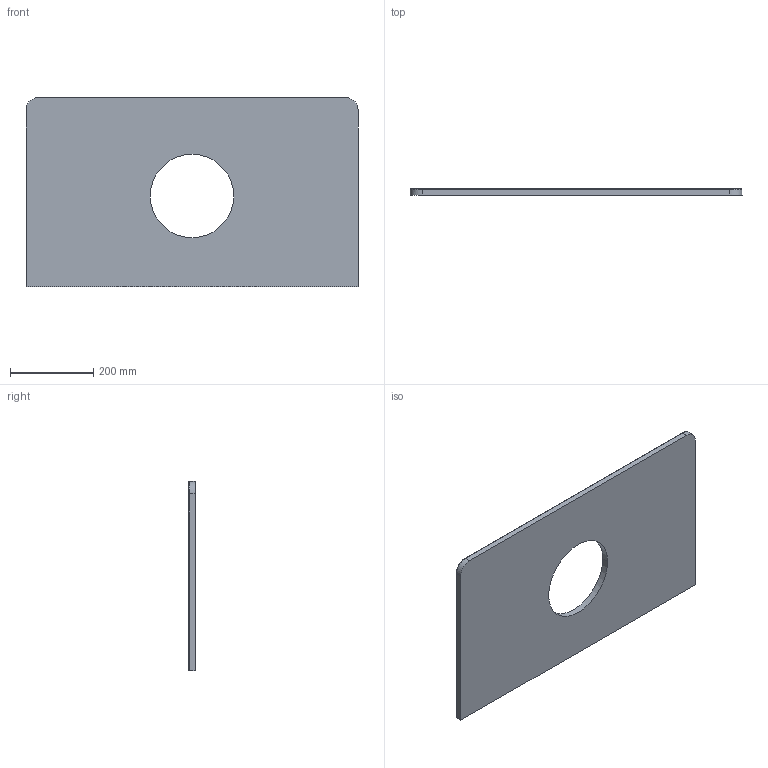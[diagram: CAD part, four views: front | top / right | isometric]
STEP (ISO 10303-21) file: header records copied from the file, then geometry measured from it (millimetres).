
FILE_DESCRIPTION(('FreeCAD Model'),'2;1');
FILE_NAME('Open CASCADE Shape Model','2025-05-30T21:16:24',(''),(''), 'Open CASCADE STEP processor 7.8','FreeCAD','Unknown');
FILE_SCHEMA(('AUTOMOTIVE_DESIGN { 1 0 10303 214 1 1 1 1 }'));
Length unit declared in the file: millimetre
Products named in the file (2): TopLevelAssembly; Po\X2\01420105\X0\czona geometria bry\X2\0142\X0\owa
Assembly tree (1 placements, depth 2):
  TopLevelAssembly
    Po\X2\01420105\X0\czona geometria bry\X2\0142\X0\owa
Bounding box: 797 x 16 x 454 mm (x, y, z)
Volume: 5275439.4 mm3; surface area: 707882.7 mm2
Topology: 1 solids, 1 shells, 15 faces, 35 edges, 22 vertices
Faces by surface type: plane 6, cylinder 5, bspline 4
Entity records: 487 total; most frequent: CARTESIAN_POINT 100, DIRECTION 77, ORIENTED_EDGE 70, EDGE_CURVE 35, AXIS2_PLACEMENT_3D 29, VERTEX_POINT 22, LINE 19, VECTOR 19
